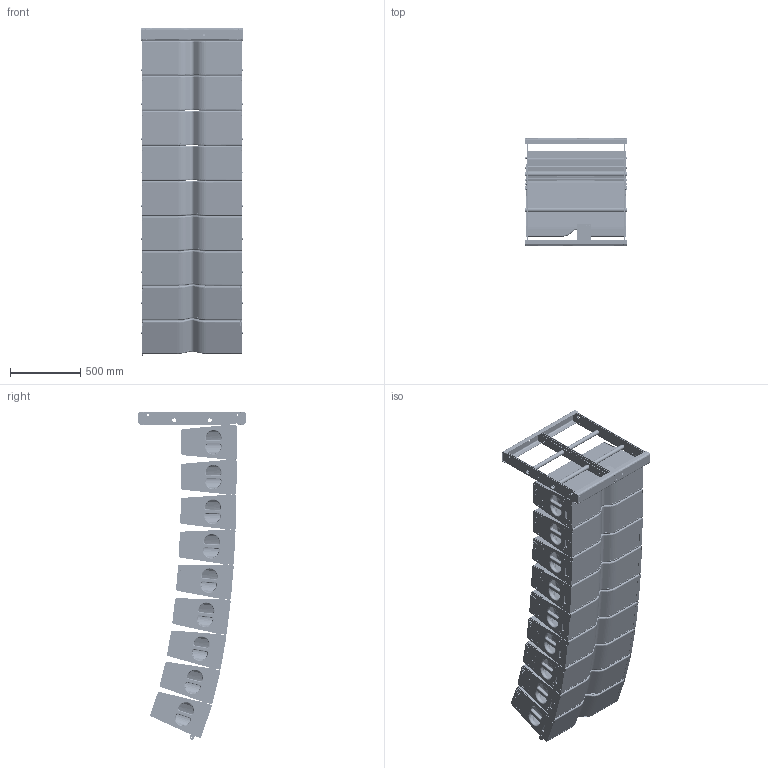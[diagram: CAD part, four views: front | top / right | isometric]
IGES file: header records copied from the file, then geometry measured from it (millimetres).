
Global section: file name: LA28 9 Box ARRAY v3; native system: unknown; preprocessor: unknown; author: unknown; organization: unknown; date: 20230121.235053; units: inch
Bounding box: 727.01 x 762 x 2328.75 mm (x, y, z)
Volume: 520604446.6 mm3; surface area: 12725518.7 mm2
Topology: 24 solids, 24 shells, 4385 faces, 11717 edges, 7872 vertices
Faces by surface type: bspline 4385
